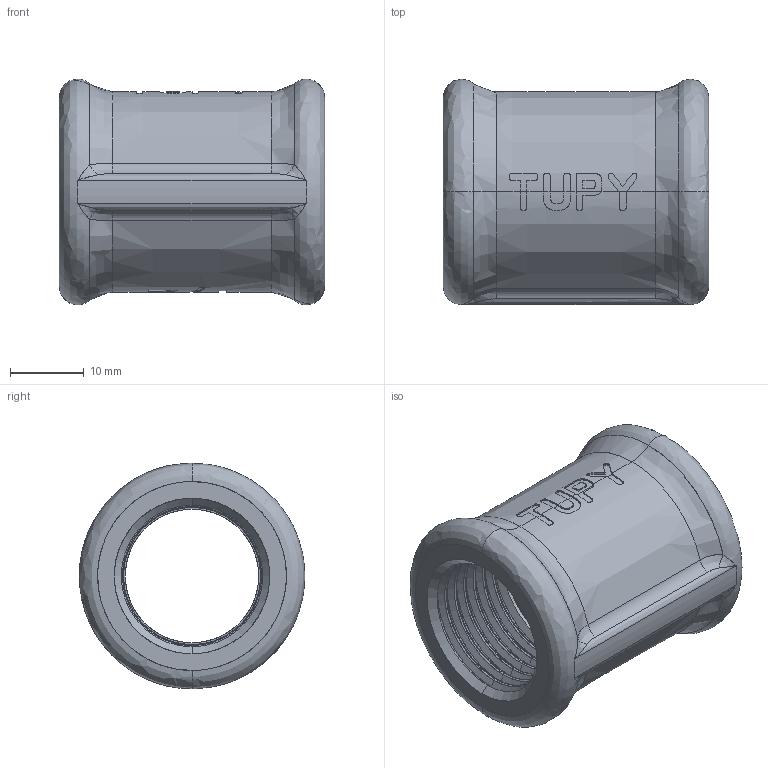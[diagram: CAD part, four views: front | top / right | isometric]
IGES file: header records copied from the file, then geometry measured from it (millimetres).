
Start section: SolidWorks IGES file using analytic representation for surfaces
Global section: file name: C:\Users\Joel Rosa\Desktop\Tubulação\12-36-OK\12-36-004.IGS; native system: SolidWorks 2011; preprocessor: SolidWorks 2011; author: Joel Rosa; date: 131216.200248; units: millimetre
Bounding box: 36 x 30.59 x 30.6 mm (x, y, z)
Surface area: 7257.1 mm2 (no closed solid volume)
Topology: 0 solids, 0 shells, 272 faces, 2380 edges, 2376 vertices
Faces by surface type: bspline 184, revolution 88
